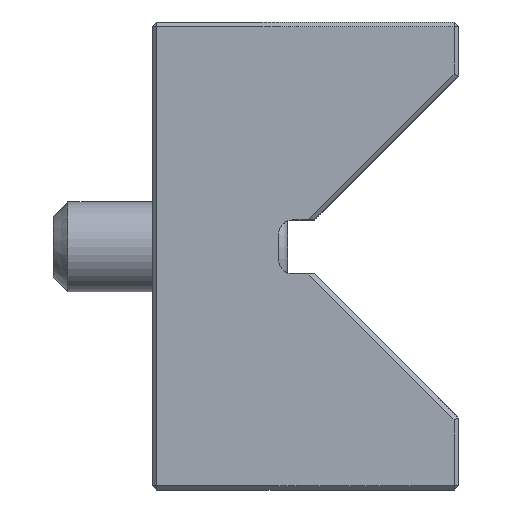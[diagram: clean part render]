
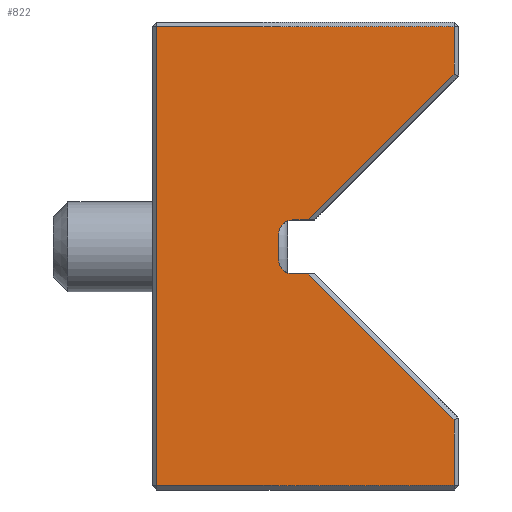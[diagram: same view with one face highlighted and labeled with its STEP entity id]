
A CAD part, left-side view. The second image highlights one B-rep face of the part: STEP entity #822.
In plain terms, the highlighted planar face has unit normal (-1, 0, 0).
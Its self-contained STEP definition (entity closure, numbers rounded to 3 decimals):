
#822=ADVANCED_FACE('',(#1728),#1730,.F.);
#1728=FACE_BOUND('',#1729,.T.);
#1729=EDGE_LOOP('',(#2360,#2361,#2362,#2363,#2364,#2365,#2366,#2367,#2368,#2369,
#2370,#2371));
#1730=PLANE('',#1731);
#1731=AXIS2_PLACEMENT_3D('',#1732,#1733,#1734);
#1732=CARTESIAN_POINT('',(-65.,0.,0.));
#1733=DIRECTION('',(1.,0.,0.));
#1734=DIRECTION('',(0.,1.,0.));
#2360=ORIENTED_EDGE('',*,*,#2697,.T.);
#2361=ORIENTED_EDGE('',*,*,#2656,.T.);
#2362=ORIENTED_EDGE('',*,*,#2652,.T.);
#2363=ORIENTED_EDGE('',*,*,#2676,.T.);
#2364=ORIENTED_EDGE('',*,*,#2674,.T.);
#2365=ORIENTED_EDGE('',*,*,#2672,.T.);
#2366=ORIENTED_EDGE('',*,*,#2698,.T.);
#2367=ORIENTED_EDGE('',*,*,#2699,.F.);
#2368=ORIENTED_EDGE('',*,*,#2688,.F.);
#2369=ORIENTED_EDGE('',*,*,#2637,.F.);
#2370=ORIENTED_EDGE('',*,*,#2685,.F.);
#2371=ORIENTED_EDGE('',*,*,#2700,.F.);
#2637=EDGE_CURVE('',#3016,#3014,#3018,.T.);
#2652=EDGE_CURVE('',#3035,#3033,#3036,.T.);
#2656=EDGE_CURVE('',#3039,#3035,#3042,.T.);
#2672=EDGE_CURVE('',#3069,#3067,#3070,.T.);
#2674=EDGE_CURVE('',#3072,#3069,#3073,.T.);
#2676=EDGE_CURVE('',#3033,#3072,#3075,.T.);
#2685=EDGE_CURVE('',#3087,#3016,#3089,.T.);
#2688=EDGE_CURVE('',#3014,#3092,#3093,.T.);
#2697=EDGE_CURVE('',#3106,#3039,#3107,.T.);
#2698=EDGE_CURVE('',#3067,#3108,#3109,.T.);
#2699=EDGE_CURVE('',#3092,#3108,#3110,.T.);
#2700=EDGE_CURVE('',#3106,#3087,#3111,.T.);
#3014=VERTEX_POINT('',#4179);
#3016=VERTEX_POINT('',#4183);
#3018=LINE('',#4187,#4188);
#3033=VERTEX_POINT('',#4231);
#3035=VERTEX_POINT('',#4235);
#3036=CIRCLE('',#4236,1.6);
#3039=VERTEX_POINT('',#4244);
#3042=LINE('',#4251,#4252);
#3067=VERTEX_POINT('',#4307);
#3069=VERTEX_POINT('',#4311);
#3070=LINE('',#4312,#4313);
#3072=VERTEX_POINT('',#4318);
#3073=CIRCLE('',#4319,1.6);
#3075=LINE('',#4326,#4327);
#3087=VERTEX_POINT('',#4354);
#3089=LINE('',#4358,#4359);
#3092=VERTEX_POINT('',#4367);
#3093=LINE('',#4368,#4369);
#3106=VERTEX_POINT('',#4399);
#3107=LINE('',#4400,#4401);
#3108=VERTEX_POINT('',#4403);
#3109=LINE('',#4404,#4405);
#3110=LINE('',#4407,#4408);
#3111=LINE('',#4410,#4411);
#4179=CARTESIAN_POINT('',(-65.,16.5,24.5));
#4183=CARTESIAN_POINT('',(-65.,16.5,-26.5));
#4187=CARTESIAN_POINT('',(-65.,16.5,-26.5));
#4188=VECTOR('',#4189,1.);
#4189=DIRECTION('',(0.,0.,1.));
#4231=CARTESIAN_POINT('',(-65.,3.,-1.4));
#4235=CARTESIAN_POINT('',(-65.,1.4,-3.));
#4236=AXIS2_PLACEMENT_3D('',#4237,#4238,#4239);
#4237=CARTESIAN_POINT('',(-65.,1.4,-1.4));
#4238=DIRECTION('',(1.,0.,0.));
#4239=DIRECTION('',(0.,0.,-1.));
#4244=CARTESIAN_POINT('',(-65.,-0.293,-3.));
#4251=CARTESIAN_POINT('',(-65.,-0.293,-3.));
#4252=VECTOR('',#4253,1.);
#4253=DIRECTION('',(0.,1.,0.));
#4307=CARTESIAN_POINT('',(-65.,-0.293,3.));
#4311=CARTESIAN_POINT('',(-65.,1.4,3.));
#4312=CARTESIAN_POINT('',(-65.,1.4,3.));
#4313=VECTOR('',#4314,1.);
#4314=DIRECTION('',(0.,-1.,0.));
#4318=CARTESIAN_POINT('',(-65.,3.,1.4));
#4319=AXIS2_PLACEMENT_3D('',#4320,#4321,#4322);
#4320=CARTESIAN_POINT('',(-65.,1.4,1.4));
#4321=DIRECTION('',(1.,0.,0.));
#4322=DIRECTION('',(0.,1.,0.));
#4326=CARTESIAN_POINT('',(-65.,3.,-1.4));
#4327=VECTOR('',#4328,1.);
#4328=DIRECTION('',(0.,0.,1.));
#4354=CARTESIAN_POINT('',(-65.,-16.5,-26.5));
#4358=CARTESIAN_POINT('',(-65.,-16.5,-26.5));
#4359=VECTOR('',#4360,1.);
#4360=DIRECTION('',(0.,1.,0.));
#4367=CARTESIAN_POINT('',(-65.,-16.5,24.5));
#4368=CARTESIAN_POINT('',(-65.,16.5,24.5));
#4369=VECTOR('',#4370,1.);
#4370=DIRECTION('',(0.,-1.,0.));
#4399=CARTESIAN_POINT('',(-65.,-16.5,-19.207));
#4400=CARTESIAN_POINT('',(-65.,-16.5,-19.207));
#4401=VECTOR('',#4402,1.);
#4402=DIRECTION('',(0.,0.707,0.707));
#4403=CARTESIAN_POINT('',(-65.,-16.5,19.207));
#4404=CARTESIAN_POINT('',(-65.,-0.293,3.));
#4405=VECTOR('',#4406,1.);
#4406=DIRECTION('',(0.,-0.707,0.707));
#4407=CARTESIAN_POINT('',(-65.,-16.5,24.5));
#4408=VECTOR('',#4409,1.);
#4409=DIRECTION('',(0.,0.,-1.));
#4410=CARTESIAN_POINT('',(-65.,-16.5,-19.207));
#4411=VECTOR('',#4412,1.);
#4412=DIRECTION('',(0.,0.,-1.));
